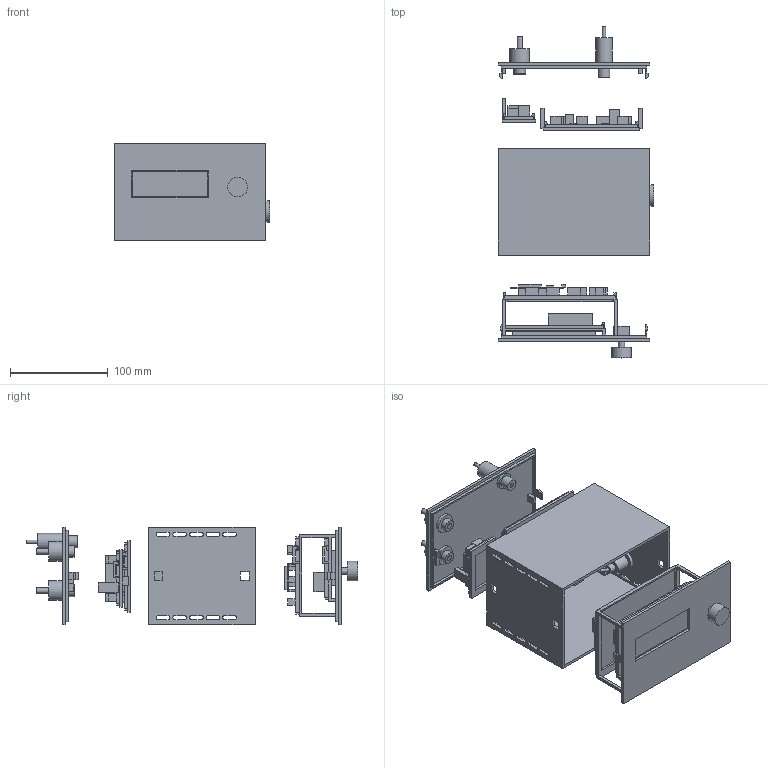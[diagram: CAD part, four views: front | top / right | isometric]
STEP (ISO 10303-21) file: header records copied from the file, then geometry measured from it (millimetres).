
FILE_DESCRIPTION(('Open CASCADE Model'),'2;1');
FILE_NAME('Open CASCADE Shape Model','2026-11-05T13:32:28',('Author'),( 'Open CASCADE'),'Open CASCADE STEP processor 7.8','Open CASCADE 7.8' ,'Unknown');
FILE_SCHEMA(('AUTOMOTIVE_DESIGN { 1 0 10303 214 1 1 1 1 }'));
Length unit declared in the file: millimetre
Products named in the file (100): Exploded_fit_study_06_side_vents; 05_XL4015_removable_carrier; 01_Shell_open_front_and_rear; 02_Removable_front_LCD_A; 03_B_removable_carrier; 04_Rear_panel_with_latches; PCB_A; A_C1_ENVELOPE; A_C2_ENVELOPE; A_C3_ENVELOPE; A_D1_ENVELOPE; A_D2_ENVELOPE; A_J1_ENVELOPE; A_J2_ENVELOPE; A_J3_ENVELOPE; A_J4_ENVELOPE; A_J5_ENVELOPE; A_J6_ENVELOPE; A_J7_ENVELOPE; A_JP1_ENVELOPE; A_R1_ENVELOPE; A_R2_ENVELOPE; A_R3_ENVELOPE; A_R4_ENVELOPE; A_R5_ENVELOPE; A_R6_ENVELOPE; A_R7_ENVELOPE; A_U2_ENVELOPE; PCB_B; B_C1_ENVELOPE; B_C2_ENVELOPE; B_C3_ENVELOPE; B_C4_ENVELOPE; B_C5_ENVELOPE; B_C6_ENVELOPE; B_C7_ENVELOPE; B_C8_ENVELOPE; B_D2_ENVELOPE; B_D3_ENVELOPE; B_D4_ENVELOPE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
Assembly tree (99 placements, depth 2):
  Exploded_fit_study_06_side_vents
    05_XL4015_removable_carrier
    01_Shell_open_front_and_rear
    02_Removable_front_LCD_A
    03_B_removable_carrier
    04_Rear_panel_with_latches
    PCB_A
    A_C1_ENVELOPE
    A_C2_ENVELOPE
    A_C3_ENVELOPE
    A_D1_ENVELOPE
    A_D2_ENVELOPE
    A_J1_ENVELOPE
    A_J2_ENVELOPE
    A_J3_ENVELOPE
    A_J4_ENVELOPE
    A_J5_ENVELOPE
    A_J6_ENVELOPE
    A_J7_ENVELOPE
    A_JP1_ENVELOPE
    A_R1_ENVELOPE
    A_R2_ENVELOPE
    A_R3_ENVELOPE
    A_R4_ENVELOPE
    A_R5_ENVELOPE
    A_R6_ENVELOPE
    A_R7_ENVELOPE
    A_U2_ENVELOPE
    PCB_B
    B_C1_ENVELOPE
    B_C2_ENVELOPE
    B_C3_ENVELOPE
    B_C4_ENVELOPE
    B_C5_ENVELOPE
    B_C6_ENVELOPE
    B_C7_ENVELOPE
    B_C8_ENVELOPE
    B_D2_ENVELOPE
    B_D3_ENVELOPE
    B_D4_ENVELOPE
    B_D5_ENVELOPE
    B_D6_ENVELOPE
    B_D7_ENVELOPE
    B_D8_ENVELOPE
    B_F1_ENVELOPE
    B_F2_ENVELOPE
    B_J1_ENVELOPE
    B_J2_ENVELOPE
    B_J3_ENVELOPE
    B_J4_ENVELOPE
    B_J6_ENVELOPE
    B_J7_ENVELOPE
    B_J8_ENVELOPE
    B_J9_ENVELOPE
    B_Q1_ENVELOPE
    B_Q2_ENVELOPE
    B_R1_ENVELOPE
    B_R10_ENVELOPE
    B_R11_ENVELOPE
    B_R12_ENVELOPE
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Bounding box: 159 x 339 x 100 mm (x, y, z)
Volume: 441271.5 mm3; surface area: 332696 mm2
Topology: 99 solids, 99 shells, 1131 faces, 2715 edges, 1806 vertices
Faces by surface type: plane 1058, cylinder 73
Full cylindrical faces by diameter (mm): 3 x3, 3.5 x1, 4.3 x1, 5.5 x2, 6.3 x2, 6.4 x1, 7.2 x1, 8 x1, 12 x6, 12.4 x1, 12.5 x2, 15 x2, 16 x1, 17 x2, 20 x5, 22 x2
Entity records: 70214 total; most frequent: CARTESIAN_POINT 11236, DIRECTION 10751, LINE 7837, VECTOR 7837, ORIENTED_EDGE 5430, PCURVE 5430, DEFINITIONAL_REPRESENTATION 5430, EDGE_CURVE 2715
